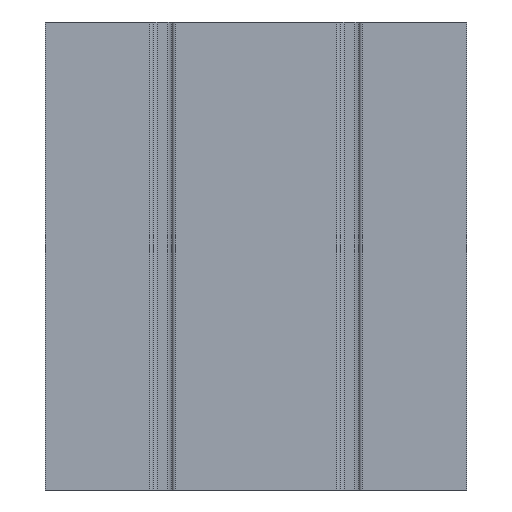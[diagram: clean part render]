
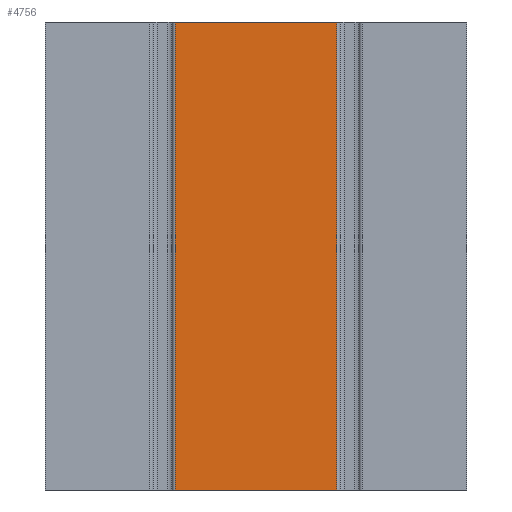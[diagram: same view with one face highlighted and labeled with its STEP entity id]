
A CAD part, front view. The second image highlights one B-rep face of the part: STEP entity #4756.
In plain terms, the highlighted planar face has unit normal (0, -1, 0).
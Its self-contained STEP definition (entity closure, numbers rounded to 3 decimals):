
#41=PLANE('',#5069);
#208=LINE('',#7348,#652);
#209=LINE('',#7350,#653);
#210=LINE('',#7352,#654);
#211=LINE('',#7354,#655);
#652=VECTOR('',#5805,1000.);
#653=VECTOR('',#5808,1000.);
#654=VECTOR('',#5809,1000.);
#655=VECTOR('',#5810,1000.);
#1192=ORIENTED_EDGE('',*,*,#2635,.F.);
#1193=ORIENTED_EDGE('',*,*,#2634,.F.);
#1194=ORIENTED_EDGE('',*,*,#2636,.T.);
#1195=ORIENTED_EDGE('',*,*,#2637,.T.);
#2634=EDGE_CURVE('',#3333,#3332,#208,.T.);
#2635=EDGE_CURVE('',#3332,#3334,#209,.T.);
#2636=EDGE_CURVE('',#3333,#3335,#210,.T.);
#2637=EDGE_CURVE('',#3335,#3334,#211,.T.);
#3332=VERTEX_POINT('',#7345);
#3333=VERTEX_POINT('',#7347);
#3334=VERTEX_POINT('',#7351);
#3335=VERTEX_POINT('',#7353);
#4082=EDGE_LOOP('',(#1192,#1193,#1194,#1195));
#4344=FACE_BOUND('',#4082,.T.);
#4756=ADVANCED_FACE('',(#4344),#41,.T.);
#5069=AXIS2_PLACEMENT_3D('',#7349,#5806,#5807);
#5805=DIRECTION('',(0.,0.,1.));
#5806=DIRECTION('',(0.,-1.,0.));
#5807=DIRECTION('',(0.,0.,-1.));
#5808=DIRECTION('',(1.,0.,0.));
#5809=DIRECTION('',(1.,0.,0.));
#5810=DIRECTION('',(0.,0.,1.));
#7345=CARTESIAN_POINT('',(-34.5,0.,0.));
#7347=CARTESIAN_POINT('',(-34.5,0.,-200.));
#7348=CARTESIAN_POINT('',(-34.5,0.,-200.));
#7349=CARTESIAN_POINT('',(-34.5,0.,-200.));
#7350=CARTESIAN_POINT('',(-34.5,0.,0.));
#7351=CARTESIAN_POINT('',(34.5,0.,0.));
#7352=CARTESIAN_POINT('',(-34.5,0.,-200.));
#7353=CARTESIAN_POINT('',(34.5,0.,-200.));
#7354=CARTESIAN_POINT('',(34.5,0.,-200.));
